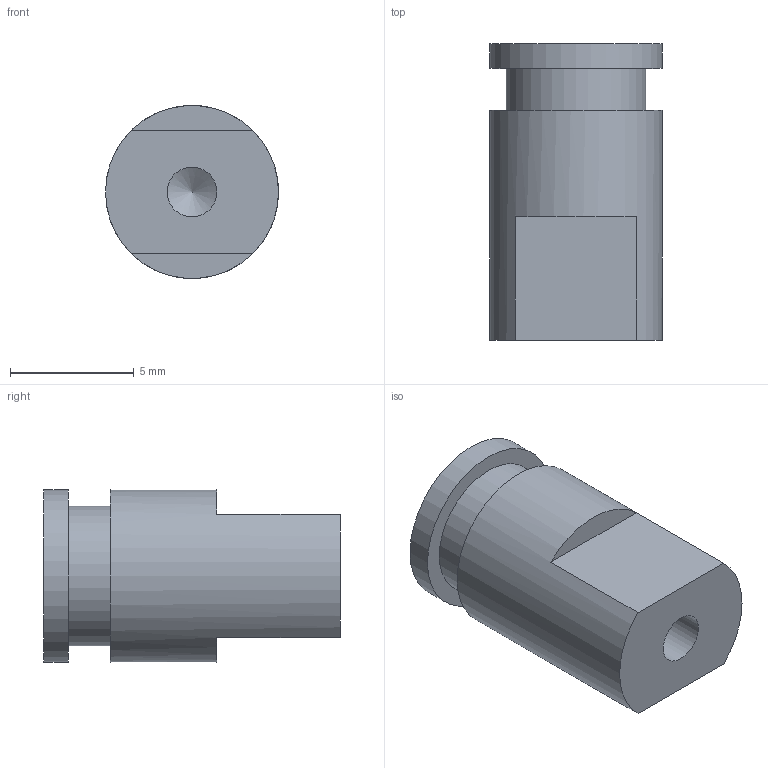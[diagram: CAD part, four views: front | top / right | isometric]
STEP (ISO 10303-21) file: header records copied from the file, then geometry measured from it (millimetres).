
FILE_DESCRIPTION(/* description */ (''),/* implementation_level */ '2;1');
FILE_NAME(/* name */ 'C:\Users\strothej\Documents\ActualDocuments\MicroscopeParts\TwoPhotonSystem\ScanningMechanics\v26\Drawings\Slider_Stop.stp',/* time_stamp */ '2017-05-19T18:07:01-07:00',/* author */ ('strothej'),/* organization */ (''),/* preprocessor_version */ 'ST-DEVELOPER v16.1',/* originating_system */ 'Autodesk Inventor 2016',/* authorisation */ '');
FILE_SCHEMA (('AUTOMOTIVE_DESIGN { 1 0 10303 214 3 1 1 }'));
Length unit declared in the file: millimetre
Products named in the file (1): Slider_Stop
Bounding box: 7 x 12 x 7 mm (x, y, z)
Volume: 380.5 mm3; surface area: 403.8 mm2
Topology: 1 solids, 1 shells, 13 faces, 26 edges, 17 vertices
Faces by surface type: plane 8, cylinder 4, cone 1
Full cylindrical faces by diameter (mm): 2.013 x1, 5.65 x1, 7 x2
Entity records: 324 total; most frequent: DIRECTION 58, CARTESIAN_POINT 48, ORIENTED_EDGE 38, AXIS2_PLACEMENT_3D 25, EDGE_LOOP 20, EDGE_CURVE 19, VERTEX_POINT 15, FACE_OUTER_BOUND 13
